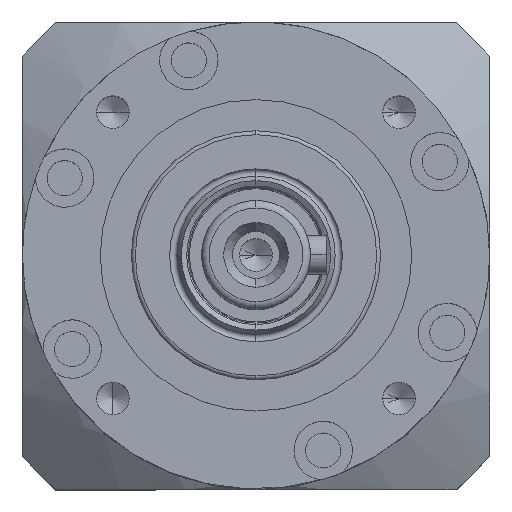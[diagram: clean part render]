
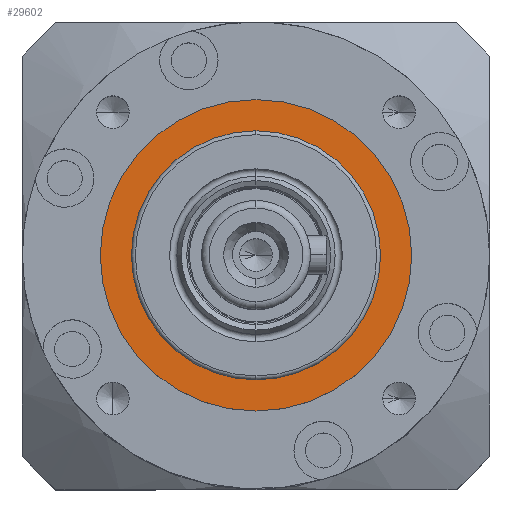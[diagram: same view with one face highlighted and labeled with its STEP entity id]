
A CAD part, top view. The second image highlights one B-rep face of the part: STEP entity #29602.
In plain terms, the highlighted planar face has unit normal (0, 0, 1).
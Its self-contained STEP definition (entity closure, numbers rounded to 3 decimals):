
#1883 = CIRCLE ( 'NONE', #20172, 20. ) ;
#1956 = DIRECTION ( 'NONE',  ( 0., 0., 1. ) ) ;
#2716 = DIRECTION ( 'NONE',  ( 0., 0., -1. ) ) ;
#4999 = VERTEX_POINT ( 'NONE', #28897 ) ;
#5288 = AXIS2_PLACEMENT_3D ( 'NONE', #44491, #2716, #27305 ) ;
#5402 = CARTESIAN_POINT ( 'NONE',  ( 0., 0., 0. ) ) ;
#6782 = FACE_OUTER_BOUND ( 'NONE', #27224, .T. ) ;
#7501 = VERTEX_POINT ( 'NONE', #18668 ) ;
#7553 = ORIENTED_EDGE ( 'NONE', *, *, #29461, .F. ) ;
#8913 = DIRECTION ( 'NONE',  ( 1., 0., 0. ) ) ;
#14803 = DIRECTION ( 'NONE',  ( 0., 0., -1. ) ) ;
#16914 = DIRECTION ( 'NONE',  ( 0., 0., -1. ) ) ;
#18668 = CARTESIAN_POINT ( 'NONE',  ( 20., 0., 0. ) ) ;
#19026 = AXIS2_PLACEMENT_3D ( 'NONE', #5402, #29967, #8913 ) ;
#20172 = AXIS2_PLACEMENT_3D ( 'NONE', #35849, #14803, #39337 ) ;
#21946 = VERTEX_POINT ( 'NONE', #22603 ) ;
#22603 = CARTESIAN_POINT ( 'NONE',  ( -16., 0., 0. ) ) ;
#22694 = AXIS2_PLACEMENT_3D ( 'NONE', #23067, #1956, #26547 ) ;
#23067 = CARTESIAN_POINT ( 'NONE',  ( 0., 0., 0. ) ) ;
#24450 = EDGE_CURVE ( 'NONE', #7501, #36189, #1883, .T. ) ;
#25485 = FACE_BOUND ( 'NONE', #29414, .T. ) ;
#26547 = DIRECTION ( 'NONE',  ( 1., 0., 0. ) ) ;
#26894 = AXIS2_PLACEMENT_3D ( 'NONE', #37939, #16914, #41412 ) ;
#27224 = EDGE_LOOP ( 'NONE', ( #34547, #37819 ) ) ;
#27305 = DIRECTION ( 'NONE',  ( -1., 0., 0. ) ) ;
#28468 = CIRCLE ( 'NONE', #19026, 16. ) ;
#28897 = CARTESIAN_POINT ( 'NONE',  ( 16., 0., 0. ) ) ;
#29414 = EDGE_LOOP ( 'NONE', ( #43457, #7553 ) ) ;
#29461 = EDGE_CURVE ( 'NONE', #21946, #4999, #30972, .T. ) ;
#29602 = ADVANCED_FACE ( 'NONE', ( #25485, #6782 ), #44642, .F. ) ;
#29967 = DIRECTION ( 'NONE',  ( 0., 0., 1. ) ) ;
#30972 = CIRCLE ( 'NONE', #22694, 16. ) ;
#34329 = EDGE_CURVE ( 'NONE', #36189, #7501, #35656, .T. ) ;
#34547 = ORIENTED_EDGE ( 'NONE', *, *, #24450, .F. ) ;
#35656 = CIRCLE ( 'NONE', #26894, 20. ) ;
#35849 = CARTESIAN_POINT ( 'NONE',  ( 0., 0., 0. ) ) ;
#36189 = VERTEX_POINT ( 'NONE', #39945 ) ;
#37399 = EDGE_CURVE ( 'NONE', #4999, #21946, #28468, .T. ) ;
#37819 = ORIENTED_EDGE ( 'NONE', *, *, #34329, .F. ) ;
#37939 = CARTESIAN_POINT ( 'NONE',  ( 0., 0., 0. ) ) ;
#39337 = DIRECTION ( 'NONE',  ( 1., 0., 0. ) ) ;
#39945 = CARTESIAN_POINT ( 'NONE',  ( -20., 0., 0. ) ) ;
#41412 = DIRECTION ( 'NONE',  ( 1., 0., 0. ) ) ;
#43457 = ORIENTED_EDGE ( 'NONE', *, *, #37399, .F. ) ;
#44491 = CARTESIAN_POINT ( 'NONE',  ( 0., 16., 0. ) ) ;
#44642 = PLANE ( 'NONE',  #5288 ) ;
